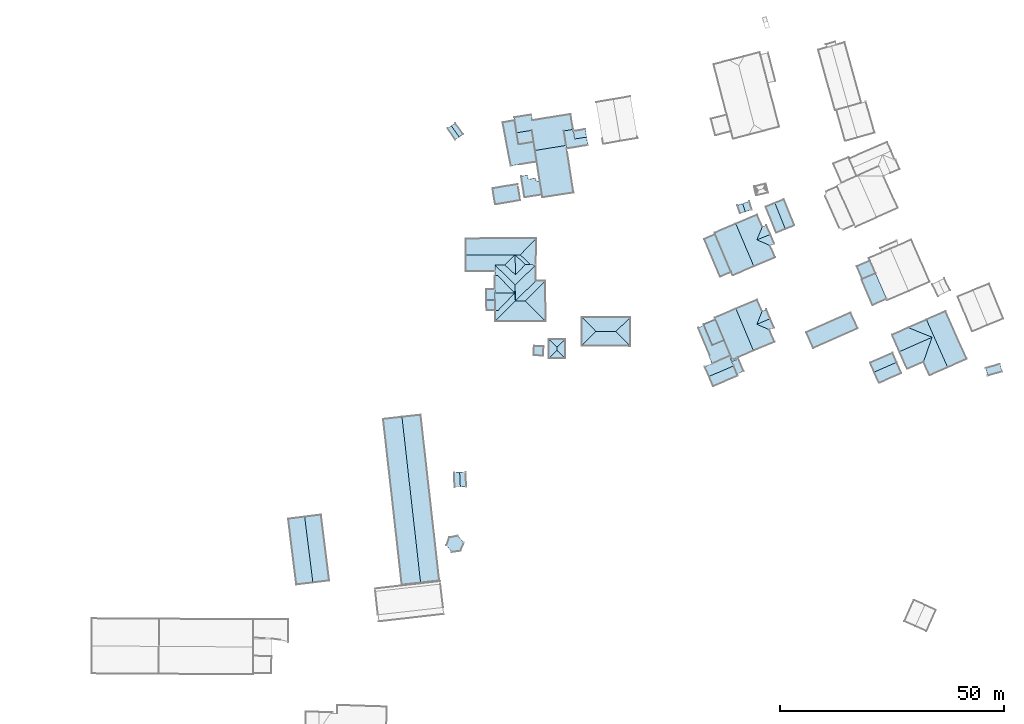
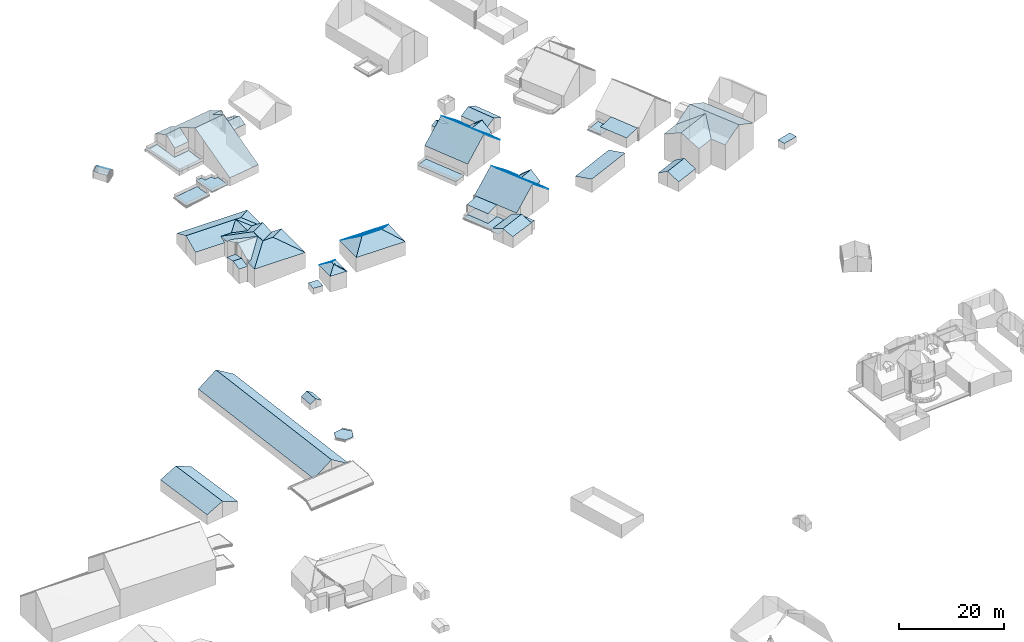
# Not in any storey, part 57 of 59: 71 roofs.
"""IFC4 building model written with IfcOpenShell, lengths in metres."""

from ifc_helpers import new_model, entity, si_unit, converted_unit, origin, place, context, subcontext, project, spatial, face_set, surface_model, element, save


model = new_model("IFC4")

# Units and contexts
model_context = context("Model", 3, precision=1e-05, world=origin())
body_context = subcontext(model_context, "Body", "Model", "MODEL_VIEW")
ifc_project = project(units=[converted_unit("PLANEANGLEUNIT", "DEGREE", entity("IfcRatioMeasure", 0.0174532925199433), si_unit("PLANEANGLEUNIT", "RADIAN"), dimensions=[0, 0, 0, 0, 0, 0, 0]), si_unit("AREAUNIT", "SQUARE_METRE"), si_unit("LENGTHUNIT", "METRE")], contexts=[model_context])

# Site, building
site_placement = place(None, origin())
site = spatial("IfcSite", under=ifc_project, at=site_placement, Name="_site")
building_1_placement = place(site_placement, origin())
building_1 = spatial("IfcBuilding", under=site, at=building_1_placement, Name="_building")

# Roofs
roof_1_placement = place(building_1_placement, origin())
element("IfcRoof", 1, at=roof_1_placement, inside=building_1, Name="Roof", PredefinedType="NOTDEFINED", context=body_context, shape_type="SurfaceModel", body=[
    surface_model("IfcFaceBasedSurfaceModel", [(249.96, 195.98, 223.99), (248.06, 190.51, 221.99), (249.41, 187.461, 221.99), (253.45, 189.25, 224.23), (248.72, 199.91, 224.23), (244.68, 198.119, 221.99)], [face_set([[[0, 1, 2, 3, 4, 5]]])]),
])
roof_2_placement = place(building_1_placement, origin())
element("IfcRoof", 2, at=roof_2_placement, inside=building_1, Name="Roof", PredefinedType="NOTDEFINED", context=body_context, shape_type="SurfaceModel", body=[
    surface_model("IfcFaceBasedSurfaceModel", [(249.96, 195.98, 223.99), (242.7, 192.76, 223.99), (244.42, 188.891, 221.99), (248.06, 190.51, 221.99)], [face_set([[[0, 1, 2, 3]]])]),
])
roof_3_placement = place(building_1_placement, origin())
element("IfcRoof", 3, at=roof_3_placement, inside=building_1, Name="Roof", PredefinedType="NOTDEFINED", context=body_context, shape_type="SurfaceModel", body=[
    surface_model("IfcFaceBasedSurfaceModel", [(244.68, 198.119, 221.99), (241.04, 196.51, 221.99), (242.7, 192.76, 223.99), (249.96, 195.98, 223.99)], [face_set([[[0, 1, 2, 3]]])]),
])
roof_4_placement = place(building_1_placement, origin())
element("IfcRoof", 4, at=roof_4_placement, inside=building_1, Name="Roof", PredefinedType="NOTDEFINED", context=body_context, shape_type="SurfaceModel", body=[
    surface_model("IfcFaceBasedSurfaceModel", [(253.45, 189.25, 224.23), (257.7, 191.131, 221.99), (252.97, 201.801, 221.99), (248.72, 199.91, 224.23)], [face_set([[[0, 1, 2, 3]]])]),
])

# Building
building_2_placement = place(site_placement, origin())
building_2 = spatial("IfcBuilding", under=site, at=building_2_placement, Name="_building")

# Roofs
roof_5_placement = place(building_2_placement, origin())
element("IfcRoof", 5, at=roof_5_placement, inside=building_2, Name="Roof", PredefinedType="NOTDEFINED", context=body_context, shape_type="SurfaceModel", body=[
    surface_model("IfcFaceBasedSurfaceModel", [(179.31, 197.27, 220.85), (182.57, 200.43, 218.91), (171.73, 200.49, 218.9), (174.82, 197.311, 220.79)], [face_set([[[0, 1, 2, 3]]])]),
])
roof_6_placement = place(building_2_placement, origin())
element("IfcRoof", 6, at=roof_6_placement, inside=building_2, Name="Roof", PredefinedType="NOTDEFINED", context=body_context, shape_type="SurfaceModel", body=[
    surface_model("IfcFaceBasedSurfaceModel", [(182.53, 194.02, 218.88), (182.57, 200.43, 218.91), (179.31, 197.27, 220.85)], [face_set([[[0, 1, 2]]])]),
])
roof_7_placement = place(building_2_placement, origin())
element("IfcRoof", 7, at=roof_7_placement, inside=building_2, Name="Roof", PredefinedType="NOTDEFINED", context=body_context, shape_type="SurfaceModel", body=[
    surface_model("IfcFaceBasedSurfaceModel", [(174.82, 197.311, 220.79), (171.73, 200.49, 218.9), (171.69, 194.08, 218.88)], [face_set([[[0, 1, 2]]])]),
])
roof_8_placement = place(building_2_placement, origin())
element("IfcRoof", 8, at=roof_8_placement, inside=building_2, Name="Roof", PredefinedType="NOTDEFINED", context=body_context, shape_type="SurfaceModel", body=[
    surface_model("IfcFaceBasedSurfaceModel", [(179.31, 197.27, 220.85), (174.82, 197.311, 220.79), (171.69, 194.08, 218.88), (182.53, 194.02, 218.88)], [face_set([[[0, 1, 2, 3]]])]),
])

# Building
building_3_placement = place(site_placement, origin())
building_3 = spatial("IfcBuilding", under=site, at=building_3_placement, Name="_building")

# Roof
roof_9_placement = place(building_3_placement, origin())
element("IfcRoof", 9, at=roof_9_placement, inside=building_3, Name="Roof", PredefinedType="NOTDEFINED", context=body_context, shape_type="SurfaceModel", body=[
    surface_model("IfcFaceBasedSurfaceModel", [(265.61, 188.32, 217.78), (265.13, 189.99, 217.82), (261.95, 189.08, 217.82), (262.42, 187.41, 217.82)], [face_set([[[0, 1, 2, 3]]])]),
])

# Building
building_4_placement = place(site_placement, origin())
building_4 = spatial("IfcBuilding", under=site, at=building_4_placement, Name="_building")

# Roofs
roof_10_placement = place(building_4_placement, origin())
element("IfcRoof", 10, at=roof_10_placement, inside=building_4, Name="Roof", PredefinedType="NOTDEFINED", context=body_context, shape_type="SurfaceModel", body=[
    surface_model("IfcFaceBasedSurfaceModel", [(144.41, 165.789, 214.49), (143.17, 165.74, 213.63), (143.3, 162.51, 213.68), (144.56, 162.561, 214.49)], [face_set([[[0, 1, 2, 3]]])]),
])
roof_11_placement = place(building_4_placement, origin())
element("IfcRoof", 11, at=roof_11_placement, inside=building_4, Name="Roof", PredefinedType="NOTDEFINED", context=body_context, shape_type="SurfaceModel", body=[
    surface_model("IfcFaceBasedSurfaceModel", [(144.56, 162.561, 214.49), (145.88, 162.609, 213.69), (145.75, 165.84, 213.64), (144.41, 165.789, 214.49)], [face_set([[[0, 1, 2, 3]]])]),
])

# Building
building_5_placement = place(site_placement, origin())
building_5 = spatial("IfcBuilding", under=site, at=building_5_placement, Name="_building")

# Roofs
roof_12_placement = place(building_5_placement, origin())
element("IfcRoof", 12, at=roof_12_placement, inside=building_5, Name="Roof", PredefinedType="NOTDEFINED", context=body_context, shape_type="SurfaceModel", body=[
    surface_model("IfcFaceBasedSurfaceModel", [(205.62, 189.57, 219.91), (205.22, 190.51, 219.47), (204.68, 191.76, 218.89), (200.809, 190.111, 218.932), (199.2, 189.43, 218.95), (200.13, 187.23, 219.85)], [face_set([[[0, 1, 2, 3, 4, 5]]])]),
])
roof_13_placement = place(building_5_placement, origin())
element("IfcRoof", 13, at=roof_13_placement, inside=building_5, Name="Roof", PredefinedType="NOTDEFINED", context=body_context, shape_type="SurfaceModel", body=[
    surface_model("IfcFaceBasedSurfaceModel", [(200.13, 187.23, 219.85), (201.06, 185.039, 218.95), (206.55, 187.381, 218.88), (206.39, 187.76, 219.06), (205.62, 189.57, 219.91)], [face_set([[[0, 1, 2, 3, 4]]])]),
])
roof_14_placement = place(building_5_placement, origin())
element("IfcRoof", 14, at=roof_14_placement, inside=building_5, Name="Roof", PredefinedType="NOTDEFINED", context=body_context, shape_type="SurfaceModel", body=[
    surface_model("IfcFaceBasedSurfaceModel", [(206.7, 191.141, 218.29), (205.22, 190.51, 218.66), (205.62, 189.57, 218.663), (206.39, 187.76, 218.67), (207.87, 188.391, 218.3)], [face_set([[[0, 1, 2, 3, 4]]])]),
])
roof_15_placement = place(building_5_placement, origin())
element("IfcRoof", 15, at=roof_15_placement, inside=building_5, Name="Roof", PredefinedType="NOTDEFINED", context=body_context, shape_type="SurfaceModel", body=[
    surface_model("IfcFaceBasedSurfaceModel", [(206.521, 191.488, 216.53), (205.35, 190.99, 216.591), (203.52, 195.32, 216.591), (200.88, 194.211, 216.591), (199.0, 198.67, 216.591), (197.72, 198.109, 216.608), (200.3, 192.01, 216.608), (200.12, 191.631, 216.608), (200.809, 190.111, 216.548), (204.68, 191.76, 216.548), (205.22, 190.51, 216.548), (206.7, 191.141, 216.53)], [face_set([[[0, 1, 2, 3, 4, 5, 6, 7, 8, 9, 10, 11]]])]),
])

# Building
building_6_placement = place(site_placement, origin())
building_6 = spatial("IfcBuilding", under=site, at=building_6_placement, Name="_building")

# Roof
roof_16_placement = place(building_6_placement, origin())
element("IfcRoof", 16, at=roof_16_placement, inside=building_6, Name="Roof", PredefinedType="NOTDEFINED", context=body_context, shape_type="SurfaceModel", body=[
    surface_model("IfcFaceBasedSurfaceModel", [(163.09, 191.869, 216.7), (163.16, 193.961, 216.74), (161.03, 194.029, 216.77), (160.97, 191.93, 216.74)], [face_set([[[0, 1, 2, 3]]])]),
])

# Building
building_7_placement = place(site_placement, origin())
building_7 = spatial("IfcBuilding", under=site, at=building_7_placement, Name="_building")

# Roofs
roof_17_placement = place(building_7_placement, origin())
element("IfcRoof", 17, at=roof_17_placement, inside=building_7, Name="Roof", PredefinedType="NOTDEFINED", context=body_context, shape_type="SurfaceModel", body=[
    surface_model("IfcFaceBasedSurfaceModel", [(207.63, 225.859, 219.13), (206.48, 225.48, 218.48), (207.07, 223.65, 218.48), (208.23, 224.029, 219.13)], [face_set([[[0, 1, 2, 3]]])]),
])
roof_18_placement = place(building_7_placement, origin())
element("IfcRoof", 18, at=roof_18_placement, inside=building_7, Name="Roof", PredefinedType="NOTDEFINED", context=body_context, shape_type="SurfaceModel", body=[
    surface_model("IfcFaceBasedSurfaceModel", [(208.23, 224.029, 219.13), (209.71, 224.52, 218.48), (209.11, 226.34, 218.48), (207.63, 225.859, 219.13)], [face_set([[[0, 1, 2, 3]]])]),
])

# Building
building_8_placement = place(site_placement, origin())
building_8 = spatial("IfcBuilding", under=site, at=building_8_placement, Name="_building")

# Roofs
roof_19_placement = place(building_8_placement, origin())
element("IfcRoof", 19, at=roof_19_placement, inside=building_8, Name="Roof", PredefinedType="NOTDEFINED", context=body_context, shape_type="SurfaceModel", body=[
    surface_model("IfcFaceBasedSurfaceModel", [(237.34, 210.27, 218.99), (234.2, 208.9, 218.54), (236.68, 203.18, 218.54), (239.83, 204.539, 218.99)], [face_set([[[0, 1, 2, 3]]])]),
])
roof_20_placement = place(building_8_placement, origin())
element("IfcRoof", 20, at=roof_20_placement, inside=building_8, Name="Roof", PredefinedType="NOTDEFINED", context=body_context, shape_type="SurfaceModel", body=[
    surface_model("IfcFaceBasedSurfaceModel", [(236.11, 213.1, 216.61), (233.18, 211.82, 216.61), (234.4, 208.99, 216.61), (237.34, 210.27, 216.61)], [face_set([[[0, 1, 2, 3]]])]),
])

# Building
building_9_placement = place(site_placement, origin())
building_9 = spatial("IfcBuilding", under=site, at=building_9_placement, Name="_building")

# Roofs
roof_21_placement = place(building_9_placement, origin())
element("IfcRoof", 21, at=roof_21_placement, inside=building_9, Name="Roof", PredefinedType="NOTDEFINED", context=body_context, shape_type="SurfaceModel", body=[
    surface_model("IfcFaceBasedSurfaceModel", [(131.52, 178.17, 216.39), (127.34, 177.699, 213.67), (131.5, 140.65, 213.68), (135.68, 141.119, 216.41)], [face_set([[[0, 1, 2, 3]]])]),
])
roof_22_placement = place(building_9_placement, origin())
element("IfcRoof", 22, at=roof_22_placement, inside=building_9, Name="Roof", PredefinedType="NOTDEFINED", context=body_context, shape_type="SurfaceModel", body=[
    surface_model("IfcFaceBasedSurfaceModel", [(135.68, 141.119, 216.41), (139.87, 141.59, 213.71), (135.7, 178.641, 213.71), (131.52, 178.17, 216.39)], [face_set([[[0, 1, 2, 3]]])]),
])

# Building
building_10_placement = place(site_placement, origin())
building_10 = spatial("IfcBuilding", under=site, at=building_10_placement, Name="_building")

# Roofs
roof_23_placement = place(building_10_placement, origin())
element("IfcRoof", 23, at=roof_23_placement, inside=building_10, Name="Roof", PredefinedType="NOTDEFINED", context=body_context, shape_type="SurfaceModel", body=[
    surface_model("IfcFaceBasedSurfaceModel", [(111.62, 141.16, 215.1), (115.28, 141.619, 213.48), (113.44, 156.32, 213.4), (109.78, 155.859, 215.09)], [face_set([[[0, 1, 2, 3]]])]),
])
roof_24_placement = place(building_10_placement, origin())
element("IfcRoof", 24, at=roof_24_placement, inside=building_10, Name="Roof", PredefinedType="NOTDEFINED", context=body_context, shape_type="SurfaceModel", body=[
    surface_model("IfcFaceBasedSurfaceModel", [(109.78, 155.859, 215.09), (106.11, 155.4, 213.41), (107.95, 140.711, 213.5), (111.62, 141.16, 215.1)], [face_set([[[0, 1, 2, 3]]])]),
])

# Building
building_11_placement = place(site_placement, origin())
building_11 = spatial("IfcBuilding", under=site, at=building_11_placement, Name="_building")

# Roof
roof_25_placement = place(building_11_placement, origin())
element("IfcRoof", 25, at=roof_25_placement, inside=building_11, Name="Roof", PredefinedType="NOTDEFINED", context=body_context, shape_type="SurfaceModel", body=[
    surface_model("IfcFaceBasedSurfaceModel", [(157.86, 227.33, 218.61), (157.51, 229.381, 218.61), (157.38, 230.18, 218.61), (151.77, 229.24, 218.61), (152.37, 225.65, 218.61), (157.98, 226.59, 218.61)], [face_set([[[0, 1, 2, 3, 4, 5]]])]),
])

# Building
building_12_placement = place(site_placement, origin())
building_12 = spatial("IfcBuilding", under=site, at=building_12_placement, Name="_building")

# Roofs
roof_26_placement = place(building_12_placement, origin())
element("IfcRoof", 26, at=roof_26_placement, inside=building_12, Name="Roof", PredefinedType="NOTDEFINED", context=body_context, shape_type="SurfaceModel", body=[
    surface_model("IfcFaceBasedSurfaceModel", [(210.81, 198.869, 220.88), (211.98, 201.77, 219.22), (210.89, 204.35, 219.22), (206.14, 202.35, 223.22), (210.05, 192.98, 223.34), (214.76, 194.961, 219.22), (213.62, 197.65, 219.22)], [face_set([[[0, 1, 2, 3, 4, 5, 6]]])]),
])
roof_27_placement = place(building_12_placement, origin())
element("IfcRoof", 27, at=roof_27_placement, inside=building_12, Name="Roof", PredefinedType="NOTDEFINED", context=body_context, shape_type="SurfaceModel", body=[
    surface_model("IfcFaceBasedSurfaceModel", [(201.57, 199.939, 219.23), (198.93, 198.83, 218.83), (199.0, 198.67, 218.83), (200.88, 194.211, 218.83), (203.52, 195.32, 219.3)], [face_set([[[0, 1, 2, 3, 4]]])]),
])
roof_28_placement = place(building_12_placement, origin())
element("IfcRoof", 28, at=roof_28_placement, inside=building_12, Name="Roof", PredefinedType="NOTDEFINED", context=body_context, shape_type="SurfaceModel", body=[
    surface_model("IfcFaceBasedSurfaceModel", [(203.52, 195.32, 216.591), (201.57, 199.939, 216.591), (198.93, 198.83, 216.591), (199.0, 198.67, 216.591), (200.88, 194.211, 216.591)], [face_set([[[0, 1, 2, 3, 4]]])]),
])
roof_29_placement = place(building_12_placement, origin())
element("IfcRoof", 29, at=roof_29_placement, inside=building_12, Name="Roof", PredefinedType="NOTDEFINED", context=body_context, shape_type="SurfaceModel", body=[
    surface_model("IfcFaceBasedSurfaceModel", [(213.62, 197.65, 219.22), (214.66, 198.09, 219.22), (213.8, 200.131, 221.07), (210.81, 198.869, 220.88)], [face_set([[[0, 1, 2, 3]]])]),
])
roof_30_placement = place(building_12_placement, origin())
element("IfcRoof", 30, at=roof_30_placement, inside=building_12, Name="Roof", PredefinedType="NOTDEFINED", context=body_context, shape_type="SurfaceModel", body=[
    surface_model("IfcFaceBasedSurfaceModel", [(213.8, 200.131, 221.07), (212.94, 202.18, 219.22), (211.98, 201.77, 219.22), (210.81, 198.869, 220.88)], [face_set([[[0, 1, 2, 3]]])]),
])
roof_31_placement = place(building_12_placement, origin())
element("IfcRoof", 31, at=roof_31_placement, inside=building_12, Name="Roof", PredefinedType="NOTDEFINED", context=body_context, shape_type="SurfaceModel", body=[
    surface_model("IfcFaceBasedSurfaceModel", [(203.52, 195.32, 219.3), (205.35, 190.99, 219.36), (206.521, 191.488, 220.352), (210.05, 192.98, 223.34), (206.14, 202.35, 223.22), (201.4, 200.34, 219.22), (201.57, 199.939, 219.23)], [face_set([[[0, 1, 2, 3, 4, 5, 6]]])]),
])

# Building
building_13_placement = place(site_placement, origin())
building_13 = spatial("IfcBuilding", under=site, at=building_13_placement, Name="_building")

# Roofs
roof_32_placement = place(building_13_placement, origin())
element("IfcRoof", 32, at=roof_32_placement, inside=building_13, Name="Roof", PredefinedType="NOTDEFINED", context=body_context, shape_type="SurfaceModel", body=[
    surface_model("IfcFaceBasedSurfaceModel", [(142.55, 243.23, 220.64), (141.72, 242.66, 220.0), (143.46, 240.15, 220.0), (144.29, 240.721, 220.64)], [face_set([[[0, 1, 2, 3]]])]),
])
roof_33_placement = place(building_13_placement, origin())
element("IfcRoof", 33, at=roof_33_placement, inside=building_13, Name="Roof", PredefinedType="NOTDEFINED", context=body_context, shape_type="SurfaceModel", body=[
    surface_model("IfcFaceBasedSurfaceModel", [(144.29, 240.721, 220.64), (145.17, 241.32, 219.9), (143.43, 243.84, 219.9), (142.55, 243.23, 220.64)], [face_set([[[0, 1, 2, 3]]])]),
])

# Building
building_14_placement = place(site_placement, origin())
building_14 = spatial("IfcBuilding", under=site, at=building_14_placement, Name="_building")

# Roofs
roof_34_placement = place(building_14_placement, origin())
element("IfcRoof", 34, at=roof_34_placement, inside=building_14, Name="Roof", PredefinedType="NOTDEFINED", context=body_context, shape_type="SurfaceModel", body=[
    surface_model("IfcFaceBasedSurfaceModel", [(168.21, 238.85, 226.39), (167.71, 242.08, 224.64), (169.75, 242.42, 224.64), (169.2, 245.83, 222.81), (160.67, 244.449, 222.81), (160.46, 245.721, 222.11), (156.61, 245.109, 222.11), (156.718, 244.439, 222.459), (157.15, 241.67, 223.9), (160.56, 242.211, 223.99), (160.97, 239.6, 225.38), (161.26, 237.711, 226.39)], [face_set([[[0, 1, 2, 3, 4, 5, 6, 7, 8, 9, 10, 11]]])]),
])
roof_35_placement = place(building_14_placement, origin())
element("IfcRoof", 35, at=roof_35_placement, inside=building_14, Name="Roof", PredefinedType="NOTDEFINED", context=body_context, shape_type="SurfaceModel", body=[
    surface_model("IfcFaceBasedSurfaceModel", [(161.651, 235.199, 220.08), (161.26, 237.711, 220.08), (160.97, 239.6, 220.08), (157.57, 239.061, 220.08), (157.15, 241.67, 220.08), (156.718, 244.439, 220.08), (154.03, 243.971, 220.101), (155.86, 234.26, 220.101), (156.49, 234.391, 220.08), (157.93, 234.619, 220.08)], [face_set([[[0, 1, 2, 3, 4, 5, 6, 7, 8, 9]]])]),
])
roof_36_placement = place(building_14_placement, origin())
element("IfcRoof", 36, at=roof_36_placement, inside=building_14, Name="Roof", PredefinedType="NOTDEFINED", context=body_context, shape_type="SurfaceModel", body=[
    surface_model("IfcFaceBasedSurfaceModel", [(162.8, 227.84, 218.64), (162.33, 230.881, 218.64), (161.54, 230.76, 218.64), (161.42, 231.551, 218.64), (159.74, 231.289, 218.64), (159.59, 232.221, 218.64), (158.16, 231.99, 218.64), (158.9, 227.23, 218.64)], [face_set([[[0, 1, 2, 3, 4, 5, 6, 7]]])]),
])
roof_37_placement = place(building_14_placement, origin())
element("IfcRoof", 37, at=roof_37_placement, inside=building_14, Name="Roof", PredefinedType="NOTDEFINED", context=body_context, shape_type="SurfaceModel", body=[
    surface_model("IfcFaceBasedSurfaceModel", [(167.71, 242.08, 224.64), (168.21, 238.85, 222.729), (168.32, 238.141, 222.31), (173.07, 238.91, 222.38), (172.78, 240.689, 223.36), (170.1, 240.279, 223.36), (169.81, 242.029, 224.4), (169.75, 242.42, 224.64)], [face_set([[[0, 1, 2, 3, 4, 5, 6, 7]]])]),
])
roof_38_placement = place(building_14_placement, origin())
element("IfcRoof", 38, at=roof_38_placement, inside=building_14, Name="Roof", PredefinedType="NOTDEFINED", context=body_context, shape_type="SurfaceModel", body=[
    surface_model("IfcFaceBasedSurfaceModel", [(157.15, 241.67, 223.9), (157.57, 239.061, 222.15), (160.97, 239.6, 222.15), (160.56, 242.211, 223.99)], [face_set([[[0, 1, 2, 3]]])]),
])
roof_39_placement = place(building_14_placement, origin())
element("IfcRoof", 39, at=roof_39_placement, inside=building_14, Name="Roof", PredefinedType="NOTDEFINED", context=body_context, shape_type="SurfaceModel", body=[
    surface_model("IfcFaceBasedSurfaceModel", [(172.78, 240.689, 223.36), (172.49, 242.471, 222.42), (169.81, 242.029, 222.8), (170.1, 240.279, 223.36)], [face_set([[[0, 1, 2, 3]]])]),
])
roof_40_placement = place(building_14_placement, origin())
element("IfcRoof", 40, at=roof_40_placement, inside=building_14, Name="Roof", PredefinedType="NOTDEFINED", context=body_context, shape_type="SurfaceModel", body=[
    surface_model("IfcFaceBasedSurfaceModel", [(161.26, 237.711, 226.39), (161.651, 235.199, 224.98), (162.9, 227.221, 220.5), (169.85, 228.311, 220.5), (168.32, 238.141, 225.99), (168.21, 238.85, 226.39)], [face_set([[[0, 1, 2, 3, 4, 5]]])]),
])

# Building
building_15_placement = place(site_placement, origin())
building_15 = spatial("IfcBuilding", under=site, at=building_15_placement, Name="_building")

# Roof
roof_41_placement = place(building_15_placement, origin())
element("IfcRoof", 41, at=roof_41_placement, inside=building_15, Name="Roof", PredefinedType="NOTDEFINED", context=body_context, shape_type="SurfaceModel", body=[
    surface_model("IfcFaceBasedSurfaceModel", [(144.6, 148.26, 214.34), (145.34, 150.07, 214.36), (144.03, 151.59, 214.36), (142.1, 151.25, 214.36), (141.43, 149.461, 214.39), (142.69, 147.971, 214.36)], [face_set([[[0, 1, 2, 3, 4, 5]]])]),
])

# Building
building_16_placement = place(site_placement, origin())
building_16 = spatial("IfcBuilding", under=site, at=building_16_placement, Name="_building")

# Roofs
roof_42_placement = place(building_16_placement, origin())
element("IfcRoof", 42, at=roof_42_placement, inside=building_16, Name="Roof", PredefinedType="NOTDEFINED", context=body_context, shape_type="SurfaceModel", body=[
    surface_model("IfcFaceBasedSurfaceModel", [(217.18, 220.16, 219.75), (219.21, 220.98, 218.73), (216.87, 226.779, 218.73), (214.85, 225.961, 219.73)], [face_set([[[0, 1, 2, 3]]])]),
])
roof_43_placement = place(building_16_placement, origin())
element("IfcRoof", 43, at=roof_43_placement, inside=building_16, Name="Roof", PredefinedType="NOTDEFINED", context=body_context, shape_type="SurfaceModel", body=[
    surface_model("IfcFaceBasedSurfaceModel", [(214.85, 225.961, 219.73), (212.81, 225.141, 218.73), (215.15, 219.34, 218.73), (217.18, 220.16, 219.75)], [face_set([[[0, 1, 2, 3]]])]),
])

# Building
building_17_placement = place(site_placement, origin())
building_17 = spatial("IfcBuilding", under=site, at=building_17_placement, Name="_building")

# Roofs
roof_44_placement = place(building_17_placement, origin())
element("IfcRoof", 44, at=roof_44_placement, inside=building_17, Name="Roof", PredefinedType="NOTDEFINED", context=body_context, shape_type="SurfaceModel", body=[
    surface_model("IfcFaceBasedSurfaceModel", [(154.51, 212.109, 219.76), (156.79, 214.391, 220.75), (145.81, 214.4, 220.75), (145.82, 210.77, 219.04), (152.28, 210.779, 219.03), (152.27, 212.131, 219.76)], [face_set([[[0, 1, 2, 3, 4, 5]]])]),
])
roof_45_placement = place(building_17_placement, origin())
element("IfcRoof", 45, at=roof_45_placement, inside=building_17, Name="Roof", PredefinedType="NOTDEFINED", context=body_context, shape_type="SurfaceModel", body=[
    surface_model("IfcFaceBasedSurfaceModel", [(152.34, 199.551, 219.64), (163.6, 199.52, 219.63), (159.1, 204.08, 222.0), (156.85, 204.07, 221.97)], [face_set([[[0, 1, 2, 3]]])]),
])
roof_46_placement = place(building_17_placement, origin())
element("IfcRoof", 46, at=roof_46_placement, inside=building_17, Name="Roof", PredefinedType="NOTDEFINED", context=body_context, shape_type="SurfaceModel", body=[
    surface_model("IfcFaceBasedSurfaceModel", [(163.6, 199.52, 219.63), (163.58, 208.58, 219.72), (159.1, 204.08, 222.0)], [face_set([[[0, 1, 2]]])]),
])
roof_47_placement = place(building_17_placement, origin())
element("IfcRoof", 47, at=roof_47_placement, inside=building_17, Name="Roof", PredefinedType="NOTDEFINED", context=body_context, shape_type="SurfaceModel", body=[
    surface_model("IfcFaceBasedSurfaceModel", [(156.85, 204.07, 221.97), (156.82, 207.68, 221.91), (152.27, 212.131, 219.76), (152.28, 210.779, 219.75), (152.29, 209.74, 219.74), (152.96, 209.75, 220.14), (156.69, 205.84, 221.97), (153.0, 201.971, 220.15), (152.33, 201.971, 219.66), (152.34, 199.551, 219.64)], [face_set([[[0, 1, 2, 3, 4, 5, 6, 7, 8, 9]]])]),
])
roof_48_placement = place(building_17_placement, origin())
element("IfcRoof", 48, at=roof_48_placement, inside=building_17, Name="Roof", PredefinedType="NOTDEFINED", context=body_context, shape_type="SurfaceModel", body=[
    surface_model("IfcFaceBasedSurfaceModel", [(161.45, 212.15, 219.73), (156.82, 207.68, 221.91), (156.85, 204.07, 221.97), (161.4, 208.57, 219.72)], [face_set([[[0, 1, 2, 3]]])]),
])
roof_49_placement = place(building_17_placement, origin())
element("IfcRoof", 49, at=roof_49_placement, inside=building_17, Name="Roof", PredefinedType="NOTDEFINED", context=body_context, shape_type="SurfaceModel", body=[
    surface_model("IfcFaceBasedSurfaceModel", [(154.51, 212.109, 219.76), (152.27, 212.131, 219.76), (156.82, 207.68, 221.91), (161.45, 212.15, 219.73), (160.23, 212.199, 219.74), (159.09, 212.23, 219.73), (156.89, 209.93, 220.76)], [face_set([[[0, 1, 2, 3, 4, 5, 6]]])]),
])
roof_50_placement = place(building_17_placement, origin())
element("IfcRoof", 50, at=roof_50_placement, inside=building_17, Name="Roof", PredefinedType="NOTDEFINED", context=body_context, shape_type="SurfaceModel", body=[
    surface_model("IfcFaceBasedSurfaceModel", [(157.95, 214.391, 220.75), (160.23, 212.199, 219.74), (161.45, 212.15, 219.02), (161.5, 218.061, 219.05)], [face_set([[[0, 1, 2, 3]]])]),
])
roof_51_placement = place(building_17_placement, origin())
element("IfcRoof", 51, at=roof_51_placement, inside=building_17, Name="Roof", PredefinedType="NOTDEFINED", context=body_context, shape_type="SurfaceModel", body=[
    surface_model("IfcFaceBasedSurfaceModel", [(159.1, 204.08, 222.0), (163.58, 208.58, 219.72), (161.4, 208.57, 219.72), (156.85, 204.07, 221.97)], [face_set([[[0, 1, 2, 3]]])]),
])
roof_52_placement = place(building_17_placement, origin())
element("IfcRoof", 52, at=roof_52_placement, inside=building_17, Name="Roof", PredefinedType="NOTDEFINED", context=body_context, shape_type="SurfaceModel", body=[
    surface_model("IfcFaceBasedSurfaceModel", [(152.309, 205.891, 221.93), (152.319, 204.35, 221.234), (152.33, 202.039, 220.19), (152.33, 201.971, 220.16), (153.0, 201.971, 220.15), (156.69, 205.84, 221.97)], [face_set([[[0, 1, 2, 3, 4, 5]]])]),
])
roof_53_placement = place(building_17_placement, origin())
element("IfcRoof", 53, at=roof_53_placement, inside=building_17, Name="Roof", PredefinedType="NOTDEFINED", context=body_context, shape_type="SurfaceModel", body=[
    surface_model("IfcFaceBasedSurfaceModel", [(152.96, 209.75, 220.14), (152.29, 209.74, 220.14), (152.3, 206.67, 221.57), (152.309, 205.891, 221.93), (156.69, 205.84, 221.97)], [face_set([[[0, 1, 2, 3, 4]]])]),
])
roof_54_placement = place(building_17_placement, origin())
element("IfcRoof", 54, at=roof_54_placement, inside=building_17, Name="Roof", PredefinedType="NOTDEFINED", context=body_context, shape_type="SurfaceModel", body=[
    surface_model("IfcFaceBasedSurfaceModel", [(156.89, 209.93, 220.76), (156.79, 214.391, 220.75), (154.51, 212.109, 219.76)], [face_set([[[0, 1, 2]]])]),
])
roof_55_placement = place(building_17_placement, origin())
element("IfcRoof", 55, at=roof_55_placement, inside=building_17, Name="Roof", PredefinedType="NOTDEFINED", context=body_context, shape_type="SurfaceModel", body=[
    surface_model("IfcFaceBasedSurfaceModel", [(156.89, 209.93, 220.76), (159.09, 212.23, 219.73), (156.79, 214.391, 220.75)], [face_set([[[0, 1, 2]]])]),
])
roof_56_placement = place(building_17_placement, origin())
element("IfcRoof", 56, at=roof_56_placement, inside=building_17, Name="Roof", PredefinedType="NOTDEFINED", context=body_context, shape_type="SurfaceModel", body=[
    surface_model("IfcFaceBasedSurfaceModel", [(152.319, 204.35, 219.33), (152.309, 205.891, 218.991), (152.3, 206.67, 218.82), (150.38, 206.66, 218.82), (150.4, 204.34, 219.33)], [face_set([[[0, 1, 2, 3, 4]]])]),
])
roof_57_placement = place(building_17_placement, origin())
element("IfcRoof", 57, at=roof_57_placement, inside=building_17, Name="Roof", PredefinedType="NOTDEFINED", context=body_context, shape_type="SurfaceModel", body=[
    surface_model("IfcFaceBasedSurfaceModel", [(150.4, 204.34, 219.33), (150.41, 202.029, 218.82), (152.33, 202.039, 218.82), (152.319, 204.35, 219.33)], [face_set([[[0, 1, 2, 3]]])]),
])
roof_58_placement = place(building_17_placement, origin())
element("IfcRoof", 58, at=roof_58_placement, inside=building_17, Name="Roof", PredefinedType="NOTDEFINED", context=body_context, shape_type="SurfaceModel", body=[
    surface_model("IfcFaceBasedSurfaceModel", [(156.79, 214.391, 220.75), (159.09, 212.23, 219.73), (160.23, 212.199, 219.74), (157.95, 214.391, 220.75)], [face_set([[[0, 1, 2, 3]]])]),
])
roof_59_placement = place(building_17_placement, origin())
element("IfcRoof", 59, at=roof_59_placement, inside=building_17, Name="Roof", PredefinedType="NOTDEFINED", context=body_context, shape_type="SurfaceModel", body=[
    surface_model("IfcFaceBasedSurfaceModel", [(161.5, 218.061, 219.05), (145.81, 218.039, 219.08), (145.81, 214.4, 220.75), (156.79, 214.391, 220.75), (157.95, 214.391, 220.75)], [face_set([[[0, 1, 2, 3, 4]]])]),
])

# Building
building_18_placement = place(site_placement, origin())
building_18 = spatial("IfcBuilding", under=site, at=building_18_placement, Name="_building")

# Roofs
roof_60_placement = place(building_18_placement, origin())
element("IfcRoof", 60, at=roof_60_placement, inside=building_18, Name="Roof", PredefinedType="NOTDEFINED", context=body_context, shape_type="SurfaceModel", body=[
    surface_model("IfcFaceBasedSurfaceModel", [(210.82, 217.74, 221.04), (212.03, 220.65, 219.35), (210.88, 223.35, 219.36), (206.12, 221.32, 223.4), (210.15, 211.801, 223.49), (214.9, 213.82, 219.27), (213.77, 216.471, 219.33)], [face_set([[[0, 1, 2, 3, 4, 5, 6]]])]),
])
roof_61_placement = place(building_18_placement, origin())
element("IfcRoof", 61, at=roof_61_placement, inside=building_18, Name="Roof", PredefinedType="NOTDEFINED", context=body_context, shape_type="SurfaceModel", body=[
    surface_model("IfcFaceBasedSurfaceModel", [(205.07, 210.561, 216.41), (201.5, 218.971, 216.41), (199.05, 217.93, 216.41), (202.62, 209.52, 216.41)], [face_set([[[0, 1, 2, 3]]])]),
])
roof_62_placement = place(building_18_placement, origin())
element("IfcRoof", 62, at=roof_62_placement, inside=building_18, Name="Roof", PredefinedType="NOTDEFINED", context=body_context, shape_type="SurfaceModel", body=[
    surface_model("IfcFaceBasedSurfaceModel", [(213.77, 216.471, 219.33), (214.73, 216.869, 219.35), (213.84, 218.949, 221.17), (210.82, 217.74, 221.04)], [face_set([[[0, 1, 2, 3]]])]),
])
roof_63_placement = place(building_18_placement, origin())
element("IfcRoof", 63, at=roof_63_placement, inside=building_18, Name="Roof", PredefinedType="NOTDEFINED", context=body_context, shape_type="SurfaceModel", body=[
    surface_model("IfcFaceBasedSurfaceModel", [(213.84, 218.949, 221.17), (212.96, 221.039, 219.35), (212.03, 220.65, 219.35), (210.82, 217.74, 221.04)], [face_set([[[0, 1, 2, 3]]])]),
])
roof_64_placement = place(building_18_placement, origin())
element("IfcRoof", 64, at=roof_64_placement, inside=building_18, Name="Roof", PredefinedType="NOTDEFINED", context=body_context, shape_type="SurfaceModel", body=[
    surface_model("IfcFaceBasedSurfaceModel", [(206.12, 221.32, 223.4), (201.36, 219.301, 219.36), (205.4, 209.789, 219.38), (210.15, 211.801, 223.49)], [face_set([[[0, 1, 2, 3]]])]),
])

# Building
building_19_placement = place(site_placement, origin())
building_19 = spatial("IfcBuilding", under=site, at=building_19_placement, Name="_building")

# Roof
roof_65_placement = place(building_19_placement, origin())
element("IfcRoof", 65, at=roof_65_placement, inside=building_19, Name="Roof", PredefinedType="NOTDEFINED", context=body_context, shape_type="SurfaceModel", body=[
    surface_model("IfcFaceBasedSurfaceModel", [(231.77, 201.49, 218.51), (221.87, 197.09, 218.51), (223.44, 193.57, 219.39), (233.34, 197.961, 219.39)], [face_set([[[0, 1, 2, 3]]])]),
])

# Building
building_20_placement = place(site_placement, origin())
building_20 = spatial("IfcBuilding", under=site, at=building_20_placement, Name="_building")

# Roofs
roof_66_placement = place(building_20_placement, origin())
element("IfcRoof", 66, at=roof_66_placement, inside=building_20, Name="Roof", PredefinedType="NOTDEFINED", context=body_context, shape_type="SurfaceModel", body=[
    surface_model("IfcFaceBasedSurfaceModel", [(164.29, 195.539, 218.8), (164.28, 191.24, 218.81), (166.12, 193.051, 219.88), (166.14, 193.789, 219.88)], [face_set([[[0, 1, 2, 3]]])]),
])
roof_67_placement = place(building_20_placement, origin())
element("IfcRoof", 67, at=roof_67_placement, inside=building_20, Name="Roof", PredefinedType="NOTDEFINED", context=body_context, shape_type="SurfaceModel", body=[
    surface_model("IfcFaceBasedSurfaceModel", [(166.12, 193.051, 219.88), (164.28, 191.24, 218.81), (168.03, 191.23, 218.73)], [face_set([[[0, 1, 2]]])]),
])
roof_68_placement = place(building_20_placement, origin())
element("IfcRoof", 68, at=roof_68_placement, inside=building_20, Name="Roof", PredefinedType="NOTDEFINED", context=body_context, shape_type="SurfaceModel", body=[
    surface_model("IfcFaceBasedSurfaceModel", [(166.14, 193.789, 219.88), (168.04, 195.529, 218.73), (164.29, 195.539, 218.8)], [face_set([[[0, 1, 2]]])]),
])
roof_69_placement = place(building_20_placement, origin())
element("IfcRoof", 69, at=roof_69_placement, inside=building_20, Name="Roof", PredefinedType="NOTDEFINED", context=body_context, shape_type="SurfaceModel", body=[
    surface_model("IfcFaceBasedSurfaceModel", [(168.03, 191.23, 218.73), (168.04, 195.529, 218.73), (166.14, 193.789, 219.88), (166.12, 193.051, 219.88)], [face_set([[[0, 1, 2, 3]]])]),
])

# Building
building_21_placement = place(site_placement, origin())
building_21 = spatial("IfcBuilding", under=site, at=building_21_placement, Name="_building")

# Roofs
roof_70_placement = place(building_21_placement, origin())
element("IfcRoof", 70, at=roof_70_placement, inside=building_21, Name="Roof", PredefinedType="NOTDEFINED", context=body_context, shape_type="SurfaceModel", body=[
    surface_model("IfcFaceBasedSurfaceModel", [(242.05, 190.381, 219.71), (241.13, 192.471, 218.35), (236.14, 190.289, 218.35), (237.06, 188.199, 219.71)], [face_set([[[0, 1, 2, 3]]])]),
])
roof_71_placement = place(building_21_placement, origin())
element("IfcRoof", 71, at=roof_71_placement, inside=building_21, Name="Roof", PredefinedType="NOTDEFINED", context=body_context, shape_type="SurfaceModel", body=[
    surface_model("IfcFaceBasedSurfaceModel", [(237.06, 188.199, 219.71), (238.12, 185.76, 218.35), (243.11, 187.939, 218.35), (242.05, 190.381, 219.71)], [face_set([[[0, 1, 2, 3]]])]),
])

save(model, "model.ifc")
